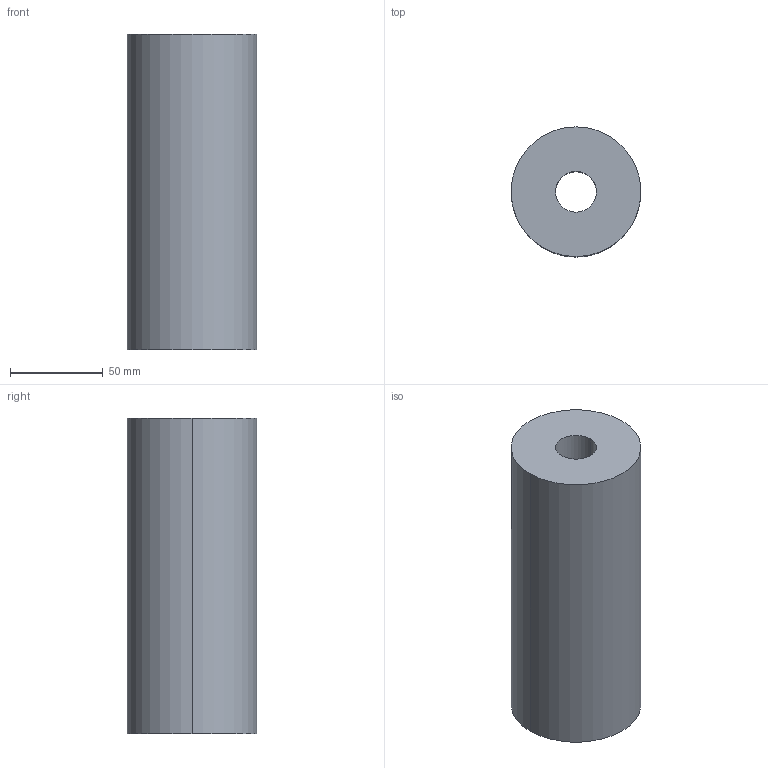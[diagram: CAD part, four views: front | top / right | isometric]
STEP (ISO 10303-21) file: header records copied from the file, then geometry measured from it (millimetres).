
FILE_DESCRIPTION(/* description */ (''),/* implementation_level */ '2;1');
FILE_NAME(/* name */ '3d_e7022170_03718_r00.stp',/* time_stamp */ '2011-01-10T14:15:49+09:00',/* author */ ('MISUMI'),/* organization */ (''),/* preprocessor_version */ 'ST-DEVELOPER v11',/* originating_system */ 'UGS - NX 5.0',/* authorisation */ '');
FILE_SCHEMA (('CONFIG_CONTROL_DESIGN'));
Length unit declared in the file: millimetre
Products named in the file (1): 3d_e7022170_03718_r00
Bounding box: 70 x 70 x 170 mm (x, y, z)
Volume: 589614.1 mm3; surface area: 56071.1 mm2
Topology: 1 solids, 1 shells, 6 faces, 12 edges, 8 vertices
Faces by surface type: cylinder 4, plane 2
Entity records: 254 total; most frequent: DIRECTION 34, CARTESIAN_POINT 27, ORIENTED_EDGE 24, AXIS2_PLACEMENT_3D 15, EDGE_CURVE 12, EDGE_LOOP 8, VERTEX_POINT 8, CIRCLE 8
